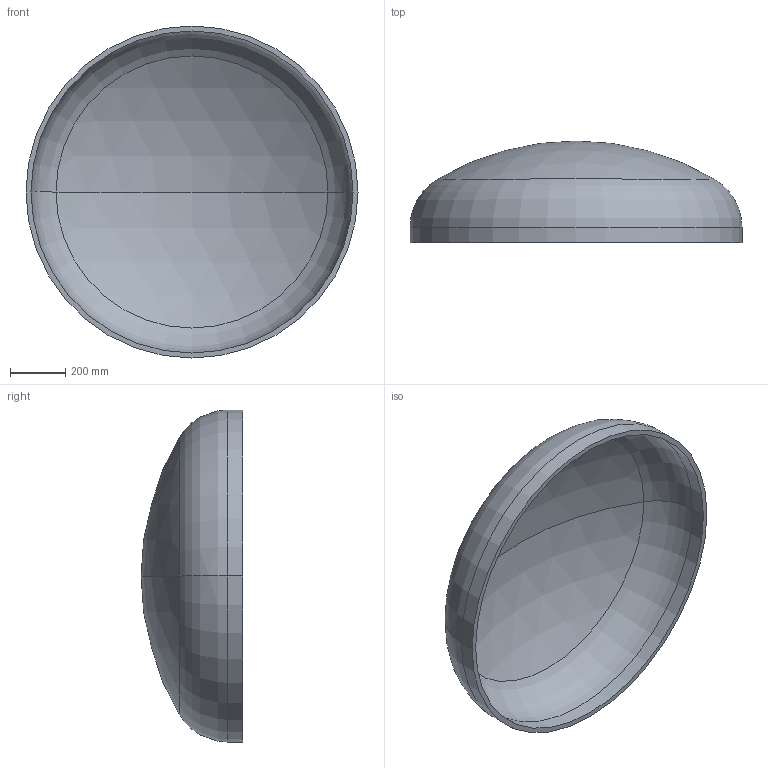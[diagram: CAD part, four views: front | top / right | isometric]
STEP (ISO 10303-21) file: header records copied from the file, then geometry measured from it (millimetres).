
FILE_DESCRIPTION (( 'STEP AP203' ), '1' );
FILE_NAME ('DIN 28013 Korbbogenform_-_Boden DIN 28013 - 1200 x 55 - I - s=18.step', '2016-07-01T09:22:39', ( '' ), ( '' ), 'SwSTEP 2.0', 'SolidWorks 2013', '' );
FILE_SCHEMA (( 'CONFIG_CONTROL_DESIGN' ));
Length unit declared in the file: millimetre
Products named in the file (1): DIN 28013 Korbbogenform_-_Boden DIN 28013 - 1200 x 55 - I - s=18
Bounding box: 1200 x 367.41 x 1200 mm (x, y, z)
Volume: 31323991.8 mm3; surface area: 3547961.5 mm2
Topology: 1 solids, 1 shells, 13 faces, 24 edges, 14 vertices
Faces by surface type: torus 4, cylinder 4, sphere 4, plane 1
Entity records: 407 total; most frequent: DIRECTION 72, CARTESIAN_POINT 52, ORIENTED_EDGE 48, AXIS2_PLACEMENT_3D 34, EDGE_CURVE 24, CIRCLE 20, EDGE_LOOP 14, VERTEX_POINT 14
